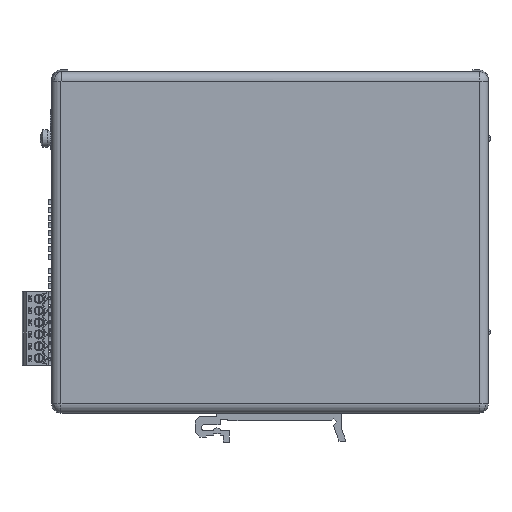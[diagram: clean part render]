
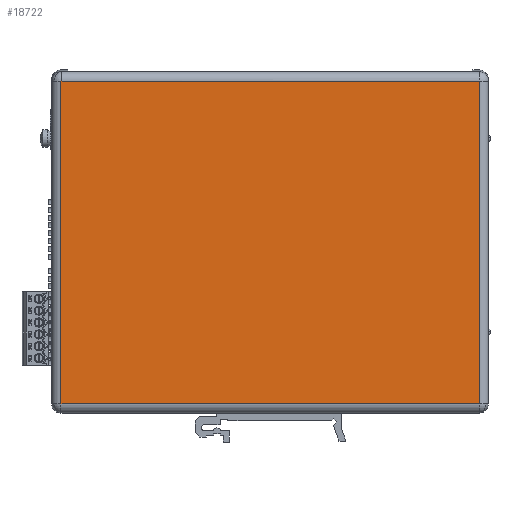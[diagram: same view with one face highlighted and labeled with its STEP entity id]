
A CAD part, front view. The second image highlights one B-rep face of the part: STEP entity #18722.
In plain terms, the highlighted planar face has unit normal (0, -1, 0).
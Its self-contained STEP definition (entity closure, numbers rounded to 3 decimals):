
#18683=CARTESIAN_POINT('',(-70.,-26.,-55.));
#18684=DIRECTION('',(0.,-1.,0.));
#18685=DIRECTION('',(0.,0.,-1.));
#18686=AXIS2_PLACEMENT_3D('',#18683,#18684,#18685);
#18687=PLANE('',#18686);
#18688=CARTESIAN_POINT('',(67.,-26.,51.397));
#18689=VERTEX_POINT('',#18688);
#18690=CARTESIAN_POINT('',(-67.,-26.,51.397));
#18691=VERTEX_POINT('',#18690);
#18692=CARTESIAN_POINT('',(67.,-26.,51.397));
#18693=DIRECTION('',(-1.,-0.,0.));
#18694=VECTOR('',#18693,134.);
#18695=LINE('',#18692,#18694);
#18696=EDGE_CURVE('',#18689,#18691,#18695,.T.);
#18697=ORIENTED_EDGE('',*,*,#18696,.T.);
#18698=CARTESIAN_POINT('',(-67.,-26.,-52.));
#18699=VERTEX_POINT('',#18698);
#18700=CARTESIAN_POINT('',(-67.,-26.,51.397));
#18701=DIRECTION('',(0.,0.,-1.));
#18702=VECTOR('',#18701,103.397);
#18703=LINE('',#18700,#18702);
#18704=EDGE_CURVE('',#18691,#18699,#18703,.T.);
#18705=ORIENTED_EDGE('',*,*,#18704,.T.);
#18706=CARTESIAN_POINT('',(67.,-26.,-52.));
#18707=VERTEX_POINT('',#18706);
#18708=CARTESIAN_POINT('',(-67.,-26.,-52.));
#18709=DIRECTION('',(1.,0.,-0.));
#18710=VECTOR('',#18709,134.);
#18711=LINE('',#18708,#18710);
#18712=EDGE_CURVE('',#18699,#18707,#18711,.T.);
#18713=ORIENTED_EDGE('',*,*,#18712,.T.);
#18714=CARTESIAN_POINT('',(67.,-26.,-52.));
#18715=DIRECTION('',(-0.,-0.,1.));
#18716=VECTOR('',#18715,103.397);
#18717=LINE('',#18714,#18716);
#18718=EDGE_CURVE('',#18707,#18689,#18717,.T.);
#18719=ORIENTED_EDGE('',*,*,#18718,.T.);
#18720=EDGE_LOOP('',(#18697,#18705,#18713,#18719));
#18721=FACE_BOUND('',#18720,.T.);
#18722=ADVANCED_FACE('',(#18721),#18687,.T.);
